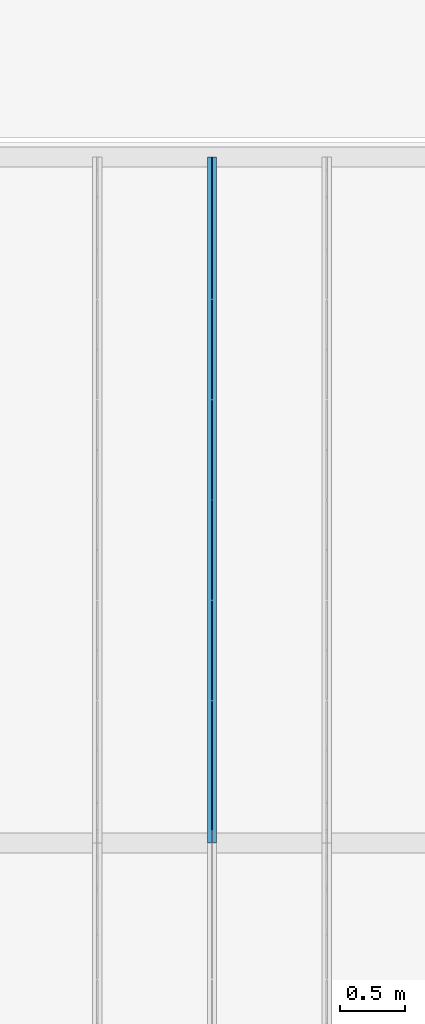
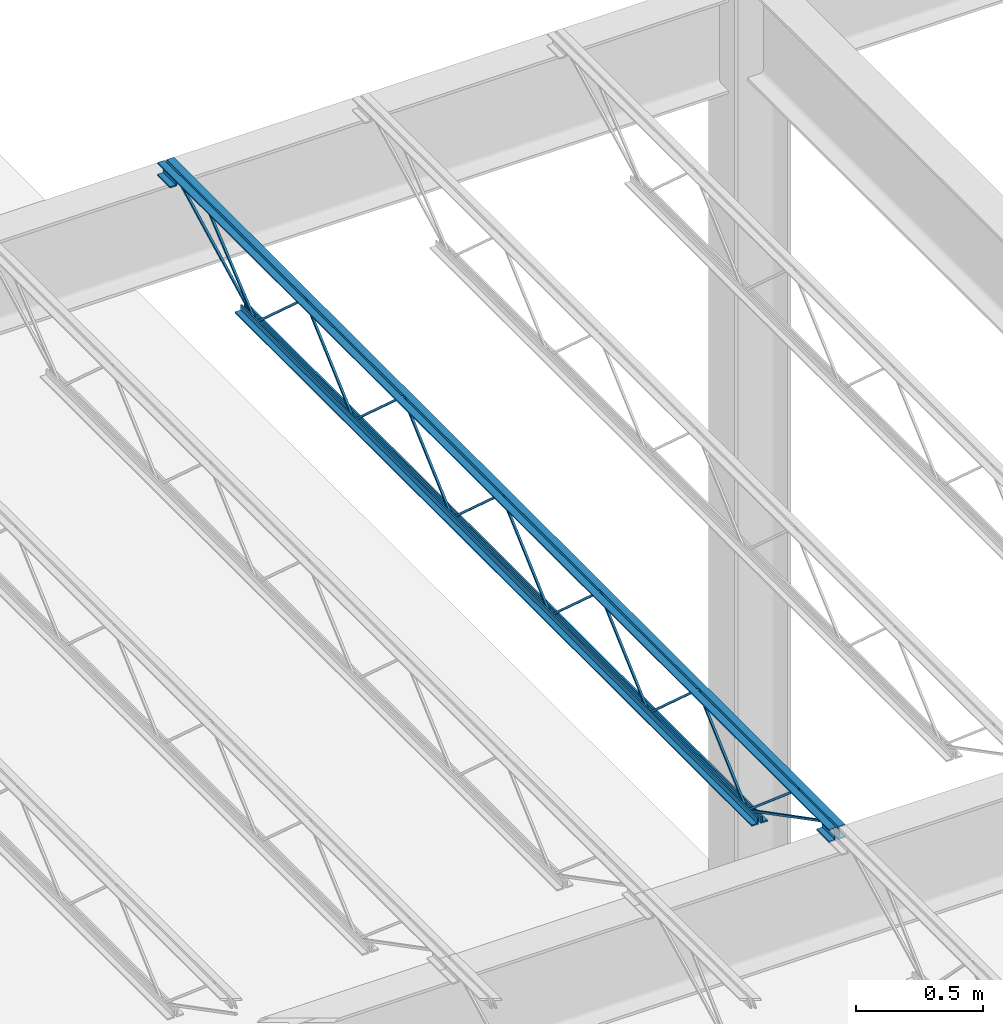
# One storey, part 92 of 119: 1 beam.
"""IFC2X3 building model written with IfcOpenShell, lengths in metres."""

from ifc_helpers import new_model, entity, si_unit, converted_unit, frame, origin, place, context, project, spatial, face_set, surface_model, element, save


model = new_model("IFC2X3")

# Units and contexts
model_context = context("Model", 3, precision=1e-09, world=origin())
plan_context = context("Plan", 3, precision=1e-09, world=origin())
ifc_project = project(units=[si_unit("LENGTHUNIT", "METRE"), si_unit("AREAUNIT", "SQUARE_METRE"), si_unit("VOLUMEUNIT", "CUBIC_METRE"), converted_unit("PLANEANGLEUNIT", "DEGREE", entity("IfcRatioMeasure", 0.01745329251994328), si_unit("PLANEANGLEUNIT", "RADIAN"), dimensions=[0, 0, 0, 0, 0, 0, 0]), si_unit("TIMEUNIT", "SECOND")], contexts=[model_context, plan_context])

# Site, building, storey
site_placement = place(None, origin())
site = spatial("IfcSite", under=ifc_project, at=site_placement, Name="Default", CompositionType="ELEMENT")
building_placement = place(site_placement, origin())
building = spatial("IfcBuilding", under=site, at=building_placement, CompositionType="ELEMENT")
storey_placement = place(building_placement, frame((0.0, 0.0, 4.570000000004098)))
storey = spatial("IfcBuildingStorey", under=building, at=storey_placement, Name="Second Floor", CompositionType="ELEMENT", Elevation=4.570000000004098)

# Beam
beam_placement = place(storey_placement, frame((-29.143, 44.78049999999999, 4.323999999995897), z_axis=(0.0, 0.0, 1.0), x_axis=(-1.0, 0.0, 0.0)))
element("IfcBeam", 1, at=beam_placement, inside=storey, Name="M_K-Series Bar Joist-Rod Web:14K1:14K1", ObjectType="M_K-Series Bar Joist-Rod Web:14K1", context=model_context, shape_type="SurfaceModel", body=[
    surface_model("IfcFaceBasedSurfaceModel", [(-0.0320000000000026, -2.266000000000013, 0.01110000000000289), (-0.04150000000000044, -2.266000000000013, 0.01110000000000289), (-0.04150000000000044, -2.266000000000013, 0.001600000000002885), (-0.0320000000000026, -2.266000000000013, 0.001600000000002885), (-0.04150000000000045, -2.264645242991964, 0.01110000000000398), (-0.0320000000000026, -2.264645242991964, 0.01110000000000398), (-0.04150000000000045, -2.26100475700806, 0.001600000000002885), (-0.04150000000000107, -1.878854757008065, 0.3449000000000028), (-0.04150000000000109, -1.876145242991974, 0.3449000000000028), (-0.0415000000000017, -1.493995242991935, 0.001600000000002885), (-0.04150000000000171, -1.489000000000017, 0.001600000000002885), (-0.04150000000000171, -1.489000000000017, 0.01110000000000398), (-0.04150000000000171, -1.490354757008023, 0.01110000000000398), (-0.04150000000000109, -1.872504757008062, 0.3544000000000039), (-0.04150000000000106, -1.882495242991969, 0.3544000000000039), (-0.03199999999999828, -2.26100475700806, 0.001600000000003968), (-0.03200000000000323, -1.878854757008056, 0.3449000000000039), (-0.03200000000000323, -1.876145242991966, 0.3449000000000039), (-0.03200000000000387, -1.493995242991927, 0.001600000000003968), (-0.03200000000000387, -1.489000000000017, 0.001600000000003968), (-0.03200000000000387, -1.489000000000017, 0.01110000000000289), (-0.03200000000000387, -1.490354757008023, 0.01110000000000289), (-0.03200000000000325, -1.872504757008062, 0.3544000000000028), (-0.03200000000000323, -1.882495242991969, 0.3544000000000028), (-0.03200000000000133, -3.04300000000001, 0.01110000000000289), (-0.04149999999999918, -3.04300000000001, 0.01110000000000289), (-0.04149999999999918, -3.04300000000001, 0.001600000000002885), (-0.03200000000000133, -3.04300000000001, 0.001600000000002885), (-0.04149999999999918, -3.041645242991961, 0.01110000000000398), (-0.03200000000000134, -3.041645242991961, 0.01110000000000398), (-0.04149999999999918, -3.038004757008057, 0.001600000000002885), (-0.0414999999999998, -2.655854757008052, 0.3449000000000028), (-0.04149999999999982, -2.653145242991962, 0.3449000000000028), (-0.04150000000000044, -2.270995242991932, 0.001600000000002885), (-0.04150000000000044, -2.266000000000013, 0.01110000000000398), (-0.04150000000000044, -2.26735475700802, 0.01110000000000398), (-0.04149999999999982, -2.649504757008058, 0.3544000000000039), (-0.0414999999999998, -2.659495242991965, 0.3544000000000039), (-0.03199999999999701, -3.038004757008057, 0.001600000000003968), (-0.03200000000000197, -2.655854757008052, 0.3449000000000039), (-0.03200000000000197, -2.653145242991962, 0.3449000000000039), (-0.0320000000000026, -2.270995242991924, 0.001600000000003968), (-0.0320000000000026, -2.266000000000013, 0.001600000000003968), (-0.0320000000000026, -2.26735475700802, 0.01110000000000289), (-0.03200000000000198, -2.649504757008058, 0.3544000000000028), (-0.03200000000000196, -2.659495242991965, 0.3544000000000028), (-0.03200000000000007, -3.820000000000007, 0.01110000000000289), (-0.04149999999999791, -3.820000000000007, 0.01110000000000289), (-0.04149999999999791, -3.820000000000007, 0.001600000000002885), (-0.03200000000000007, -3.820000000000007, 0.001600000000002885), (-0.04149999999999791, -3.818645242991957, 0.01110000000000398), (-0.03200000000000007, -3.818645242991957, 0.01110000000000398), (-0.04149999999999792, -3.815004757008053, 0.001600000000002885), (-0.04149999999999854, -3.432854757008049, 0.3449000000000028), (-0.04149999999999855, -3.430145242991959, 0.3449000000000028), (-0.04149999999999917, -3.04799524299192, 0.001600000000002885), (-0.04149999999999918, -3.043000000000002, 0.001600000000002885), (-0.04149999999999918, -3.04300000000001, 0.01110000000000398), (-0.04149999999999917, -3.044354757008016, 0.01110000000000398), (-0.04149999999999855, -3.426504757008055, 0.3544000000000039), (-0.04149999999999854, -3.436495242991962, 0.3544000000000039), (-0.03199999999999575, -3.815004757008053, 0.001600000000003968), (-0.0320000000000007, -3.432854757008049, 0.3449000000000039), (-0.0320000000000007, -3.430145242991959, 0.3449000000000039), (-0.03200000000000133, -3.04799524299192, 0.001600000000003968), (-0.03200000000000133, -3.04300000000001, 0.001600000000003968), (-0.03200000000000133, -3.043000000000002, 0.01110000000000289), (-0.03200000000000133, -3.044354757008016, 0.01110000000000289), (-0.03200000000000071, -3.426504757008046, 0.3544000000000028), (-0.0320000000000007, -3.436495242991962, 0.3544000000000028), (-0.0320000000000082, -1.489000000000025, 0.01109999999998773), (-0.04150000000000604, -1.489000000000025, 0.01109999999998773), (-0.04150000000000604, -1.489000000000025, 0.001599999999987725), (-0.0320000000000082, -1.489000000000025, 0.001599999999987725), (-0.04150000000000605, -1.487645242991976, 0.01109999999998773), (-0.0320000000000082, -1.487645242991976, 0.01109999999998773), (-0.04150000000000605, -1.484004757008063, 0.001599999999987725), (-0.04150000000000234, -1.101854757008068, 0.3448999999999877), (-0.04150000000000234, -1.099145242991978, 0.3448999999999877), (-0.04150000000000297, -0.7169952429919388, 0.001599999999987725), (-0.04150000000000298, -0.7120000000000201, 0.001599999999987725), (-0.04150000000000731, -0.7120000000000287, 0.01109999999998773), (-0.04150000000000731, -0.7133547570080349, 0.01109999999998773), (-0.04150000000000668, -1.095504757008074, 0.3543999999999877), (-0.04150000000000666, -1.10549524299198, 0.3543999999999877), (-0.03200000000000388, -1.484004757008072, 0.001599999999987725), (-0.03200000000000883, -1.101854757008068, 0.3448999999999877), (-0.03200000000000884, -1.099145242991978, 0.3448999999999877), (-0.03200000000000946, -0.7169952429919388, 0.001599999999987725), (-0.03200000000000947, -0.7120000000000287, 0.001599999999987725), (-0.03200000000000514, -0.7120000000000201, 0.01109999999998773), (-0.03200000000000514, -0.7133547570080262, 0.01109999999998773), (-0.03200000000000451, -1.095504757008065, 0.3543999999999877), (-0.0320000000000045, -1.105495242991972, 0.3543999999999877), (-0.03200000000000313, -4.597000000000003, 0.01110000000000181), (-0.04150000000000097, -4.597000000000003, 0.01110000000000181), (-0.04150000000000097, -4.597000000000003, 0.001600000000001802), (-0.03200000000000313, -4.597000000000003, 0.001600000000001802), (-0.04150000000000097, -4.595645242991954, 0.01110000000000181), (-0.03200000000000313, -4.595645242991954, 0.01110000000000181), (-0.04150000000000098, -4.592004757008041, 0.001600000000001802), (-0.04150000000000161, -4.209854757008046, 0.3449000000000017), (-0.04150000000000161, -4.207145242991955, 0.3449000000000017), (-0.0414999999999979, -3.824995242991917, 0.001600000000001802), (-0.04149999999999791, -3.819999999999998, 0.001600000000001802), (-0.04150000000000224, -3.820000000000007, 0.01110000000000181), (-0.04150000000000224, -3.821354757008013, 0.01110000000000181), (-0.04150000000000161, -4.203504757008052, 0.3544000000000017), (-0.0415000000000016, -4.213495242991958, 0.3544000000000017), (-0.03199999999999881, -4.592004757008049, 0.001600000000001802), (-0.03200000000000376, -4.209854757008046, 0.3449000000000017), (-0.03200000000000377, -4.207145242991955, 0.3449000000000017), (-0.03200000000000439, -3.824995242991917, 0.001600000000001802), (-0.0320000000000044, -3.820000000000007, 0.001600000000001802), (-0.03200000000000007, -3.819999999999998, 0.01110000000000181), (-0.03200000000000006, -3.821354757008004, 0.01110000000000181), (-0.03200000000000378, -4.203504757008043, 0.3544000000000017), (-0.03200000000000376, -4.213495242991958, 0.3544000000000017), (-0.0414999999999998, 0.0, 0.3559999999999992), (-0.07350000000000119, 0.0, 0.3559999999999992), (-0.07350000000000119, 0.0, 0.3494999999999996), (-0.04799999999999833, 0.0, 0.3494999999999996), (-0.04799999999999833, 0.0, 0.3239999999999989), (-0.0414999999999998, 0.0, 0.3239999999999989), (-0.03200000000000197, 0.0, 0.3559999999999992), (-0.03200000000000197, 0.0, 0.3239999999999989), (-0.02549999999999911, 0.0, 0.3239999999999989), (-0.02549999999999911, 0.0, 0.3494999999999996), (0.0, 0.0, 0.3494999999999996), (0.0, 0.0, 0.3559999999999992), (-0.04149999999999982, -5.309000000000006, 0.3559999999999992), (-0.0735000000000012, -5.309000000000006, 0.3559999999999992), (-0.0735000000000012, -5.309000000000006, 0.3494999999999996), (-0.04799999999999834, -5.309000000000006, 0.3494999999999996), (-0.04799999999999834, -5.309000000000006, 0.3239999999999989), (-0.04149999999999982, -5.309000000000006, 0.3239999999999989), (-0.03200000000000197, -5.309000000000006, 0.3559999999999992), (-0.03200000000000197, -5.309000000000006, 0.3239999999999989), (-0.02549999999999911, -5.309000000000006, 0.3239999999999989), (-0.02549999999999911, -5.309000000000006, 0.3494999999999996), (0.0, -5.309000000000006, 0.3494999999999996), (0.0, -5.309000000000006, 0.3559999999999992), (-0.03200000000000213, -5.20900000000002, 0.2924999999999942), (0.0, -5.20900000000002, 0.2924999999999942), (0.0, -5.20900000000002, 0.2989999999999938), (-0.02550000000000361, -5.20900000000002, 0.2989999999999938), (-0.02550000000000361, -5.20900000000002, 0.3239999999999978), (-0.03200000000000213, -5.20900000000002, 0.3239999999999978), (-0.07350000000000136, -5.20900000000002, 0.2924999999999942), (-0.04149999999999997, -5.20900000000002, 0.2924999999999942), (-0.04149999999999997, -5.20900000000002, 0.3239999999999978), (-0.04800000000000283, -5.20900000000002, 0.3239999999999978), (-0.04800000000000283, -5.20900000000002, 0.2989999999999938), (-0.07350000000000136, -5.20900000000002, 0.2989999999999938), (-0.03200000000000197, -5.309000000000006, 0.2924999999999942), (0.0, -5.309000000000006, 0.2924999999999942), (0.0, -5.309000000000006, 0.2989999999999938), (-0.02550000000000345, -5.309000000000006, 0.2989999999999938), (-0.02550000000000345, -5.309000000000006, 0.3239999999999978), (-0.03200000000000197, -5.309000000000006, 0.3239999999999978), (-0.0735000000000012, -5.309000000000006, 0.2924999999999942), (-0.04149999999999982, -5.309000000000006, 0.2924999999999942), (-0.04149999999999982, -5.309000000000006, 0.3239999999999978), (-0.04800000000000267, -5.309000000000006, 0.3239999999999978), (-0.04800000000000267, -5.309000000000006, 0.2989999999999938), (-0.0735000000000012, -5.309000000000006, 0.2989999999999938), (-0.0414999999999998, 0.0, 0.2924999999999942), (-0.0414999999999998, 0.0, 0.3239999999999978), (-0.04800000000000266, 0.0, 0.3239999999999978), (-0.04800000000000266, 0.0, 0.2989999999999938), (-0.07350000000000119, 0.0, 0.2989999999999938), (-0.07350000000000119, 0.0, 0.2924999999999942), (-0.03200000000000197, 0.0, 0.2924999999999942), (0.0, 0.0, 0.2924999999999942), (0.0, 0.0, 0.2989999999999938), (-0.02550000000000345, 0.0, 0.2989999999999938), (-0.02550000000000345, 0.0, 0.3239999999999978), (-0.03200000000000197, 0.0, 0.3239999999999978), (-0.04149999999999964, -0.1000000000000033, 0.2924999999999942), (-0.04149999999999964, -0.1000000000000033, 0.3239999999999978), (-0.0480000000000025, -0.1000000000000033, 0.3239999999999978), (-0.0480000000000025, -0.1000000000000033, 0.2989999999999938), (-0.07350000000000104, -0.1000000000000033, 0.2989999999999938), (-0.07350000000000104, -0.1000000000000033, 0.2924999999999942), (-0.03200000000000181, -0.1000000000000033, 0.2924999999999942), (0.0, -0.1000000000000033, 0.2924999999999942), (0.0, -0.1000000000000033, 0.2989999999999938), (-0.02550000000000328, -0.1000000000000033, 0.2989999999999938), (-0.02550000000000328, -0.1000000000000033, 0.3239999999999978), (-0.03200000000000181, -0.1000000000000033, 0.3239999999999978), (-0.04149999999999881, -0.6119999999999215, 0.0), (-0.04149999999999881, -0.6119999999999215, 0.03199999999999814), (-0.04799999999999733, -0.6119999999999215, 0.03199999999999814), (-0.04799999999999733, -0.6119999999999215, 0.006499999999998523), (-0.07350000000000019, -0.6119999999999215, 0.006499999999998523), (-0.07350000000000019, -0.6119999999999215, 0.0), (-0.03200000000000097, -0.6119999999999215, 0.0), (0.0, -0.6119999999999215, 0.0), (0.0, -0.6119999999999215, 0.006499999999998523), (-0.02549999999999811, -0.6119999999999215, 0.006499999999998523), (-0.02549999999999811, -0.6119999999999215, 0.03199999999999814), (-0.03200000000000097, -0.6119999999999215, 0.03199999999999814), (-0.04150000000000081, -4.696999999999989, 0.0), (-0.04150000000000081, -4.696999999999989, 0.03199999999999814), (-0.04799999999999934, -4.696999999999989, 0.03199999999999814), (-0.04799999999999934, -4.696999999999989, 0.006499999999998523), (-0.0735000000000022, -4.696999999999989, 0.006499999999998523), (-0.0735000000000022, -4.696999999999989, 0.0), (-0.03200000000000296, -4.696999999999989, 0.0), (0.0, -4.696999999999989, 0.0), (0.0, -4.696999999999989, 0.006499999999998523), (-0.02550000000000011, -4.696999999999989, 0.006499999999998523), (-0.02550000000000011, -4.696999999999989, 0.03199999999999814), (-0.03200000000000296, -4.696999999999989, 0.03199999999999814), (-0.03200000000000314, -4.594811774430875, 0.01056594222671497), (-0.04150000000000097, -4.594811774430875, 0.01056594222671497), (-0.04150000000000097, -4.599188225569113, 0.00213405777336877), (-0.03200000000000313, -4.599188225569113, 0.00213405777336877), (-0.03200000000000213, -5.207840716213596, 0.3287499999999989), (-0.03200000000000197, -5.308999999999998, 0.3287499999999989), (-0.03200000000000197, -5.308999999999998, 0.3192499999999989), (-0.03200000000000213, -5.210159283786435, 0.3192499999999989), (-0.0415000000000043, -5.210159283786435, 0.3192499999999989), (-0.04149999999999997, -5.207840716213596, 0.3287499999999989), (-0.04149999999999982, -5.308999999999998, 0.3287499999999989), (-0.04149999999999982, -5.309000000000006, 0.3192499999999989), (-0.03200000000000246, -5.005457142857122, 0.3417000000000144), (-0.0415000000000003, -5.005457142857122, 0.3417000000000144), (-0.0415000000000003, -5.005457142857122, 0.3322000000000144), (-0.03200000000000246, -5.005457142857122, 0.3322000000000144), (-0.04150000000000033, -4.991034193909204, 0.3417000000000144), (-0.03200000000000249, -4.991034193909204, 0.3417000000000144), (-0.04150000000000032, -4.994480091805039, 0.3322000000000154), (-0.04150000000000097, -4.600045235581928, 0.002704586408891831), (-0.04150000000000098, -4.593954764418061, 0.009995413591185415), (-0.03199999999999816, -4.994480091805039, 0.3322000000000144), (-0.03200000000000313, -4.600045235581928, 0.002704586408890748), (-0.03200000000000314, -4.593954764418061, 0.009995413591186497), (-0.03200000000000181, -0.09781177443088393, 0.3197840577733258), (-0.03200000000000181, -0.1021882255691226, 0.328215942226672), (-0.04149999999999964, -0.1021882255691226, 0.328215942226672), (-0.04149999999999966, -0.09781177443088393, 0.3197840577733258), (-0.03200000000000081, -0.7098117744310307, 0.002134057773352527), (-0.0320000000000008, -0.7141882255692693, 0.01056594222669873), (-0.04149999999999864, -0.7141882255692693, 0.01056594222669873), (-0.04149999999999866, -0.7098117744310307, 0.002134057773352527), (-0.03200000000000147, -0.3059055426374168, 0.3460340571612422), (-0.03200000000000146, -0.3120658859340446, 0.35326594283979), (-0.04149999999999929, -0.3120658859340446, 0.3532659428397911), (-0.04149999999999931, -0.3059055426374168, 0.3460340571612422), (-0.03200000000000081, -0.7089198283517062, 0.002734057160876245), (-0.0320000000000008, -0.7150801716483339, 0.00996594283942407), (-0.04149999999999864, -0.7150801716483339, 0.00996594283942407), (-0.04149999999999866, -0.7089198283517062, 0.002734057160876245)], [face_set([[[0, 1, 2, 3]], [[1, 4, 5, 0]], [[2, 6, 7, 8, 9, 10, 11, 12, 13, 14, 4, 1]], [[3, 2, 6, 15]], [[0, 3, 15, 16, 17, 18, 19, 20, 21, 22, 23, 5]], [[4, 5, 23, 14]], [[15, 16, 7, 6]], [[14, 13, 22, 23]], [[16, 7, 8, 17]], [[13, 12, 21, 22]], [[17, 8, 9, 18]], [[20, 11, 10, 19]], [[12, 11, 20, 21]], [[18, 9, 10, 19]]]), face_set([[[24, 25, 26, 27]], [[25, 28, 29, 24]], [[26, 30, 31, 32, 33, 2, 34, 35, 36, 37, 28, 25]], [[27, 26, 30, 38]], [[24, 27, 38, 39, 40, 41, 42, 0, 43, 44, 45, 29]], [[28, 29, 45, 37]], [[38, 39, 31, 30]], [[37, 36, 44, 45]], [[39, 31, 32, 40]], [[36, 35, 43, 44]], [[40, 32, 33, 41]], [[0, 34, 2, 42]], [[35, 34, 0, 43]], [[41, 33, 2, 42]]]), face_set([[[46, 47, 48, 49]], [[47, 50, 51, 46]], [[48, 52, 53, 54, 55, 56, 57, 58, 59, 60, 50, 47]], [[49, 48, 52, 61]], [[46, 49, 61, 62, 63, 64, 65, 66, 67, 68, 69, 51]], [[50, 51, 69, 60]], [[61, 62, 53, 52]], [[60, 59, 68, 69]], [[62, 53, 54, 63]], [[59, 58, 67, 68]], [[63, 54, 55, 64]], [[66, 57, 56, 65]], [[58, 57, 66, 67]], [[64, 55, 56, 65]]]), face_set([[[70, 71, 72, 73]], [[71, 74, 75, 70]], [[72, 76, 77, 78, 79, 80, 81, 82, 83, 84, 74, 71]], [[73, 72, 76, 85]], [[70, 73, 85, 86, 87, 88, 89, 90, 91, 92, 93, 75]], [[74, 75, 93, 84]], [[85, 86, 77, 76]], [[84, 83, 92, 93]], [[86, 77, 78, 87]], [[83, 82, 91, 92]], [[87, 78, 79, 88]], [[90, 81, 80, 89]], [[82, 81, 90, 91]], [[88, 79, 80, 89]]]), face_set([[[94, 95, 96, 97]], [[95, 98, 99, 94]], [[96, 100, 101, 102, 103, 104, 105, 106, 107, 108, 98, 95]], [[97, 96, 100, 109]], [[94, 97, 109, 110, 111, 112, 113, 114, 115, 116, 117, 99]], [[98, 99, 117, 108]], [[109, 110, 101, 100]], [[108, 107, 116, 117]], [[110, 101, 102, 111]], [[107, 106, 115, 116]], [[111, 102, 103, 112]], [[114, 105, 104, 113]], [[106, 105, 114, 115]], [[112, 103, 104, 113]]]), face_set([[[118, 119, 120, 121, 122, 123]], [[124, 125, 126, 127, 128, 129]], [[130, 131, 132, 133, 134, 135]], [[136, 137, 138, 139, 140, 141]], [[123, 118, 130, 135]], [[122, 123, 135, 134]], [[121, 133, 134, 122]], [[120, 121, 133, 132]], [[119, 131, 132, 120]], [[118, 130, 131, 119]], [[129, 141, 136, 124]], [[128, 129, 141, 140]], [[127, 128, 140, 139]], [[126, 127, 139, 138]], [[125, 126, 138, 137]], [[124, 136, 137, 125]]]), face_set([[[142, 143, 144, 145, 146, 147]], [[148, 149, 150, 151, 152, 153]], [[154, 155, 156, 157, 158, 159]], [[160, 161, 162, 163, 164, 165]], [[147, 159, 154, 142]], [[146, 158, 159, 147]], [[145, 146, 158, 157]], [[144, 156, 157, 145]], [[143, 144, 156, 155]], [[142, 143, 155, 154]], [[153, 165, 160, 148]], [[152, 164, 165, 153]], [[151, 163, 164, 152]], [[150, 162, 163, 151]], [[149, 150, 162, 161]], [[148, 149, 161, 160]]]), face_set([[[166, 167, 168, 169, 170, 171]], [[172, 173, 174, 175, 176, 177]], [[178, 179, 180, 181, 182, 183]], [[184, 185, 186, 187, 188, 189]], [[171, 166, 178, 183]], [[170, 182, 183, 171]], [[169, 181, 182, 170]], [[168, 180, 181, 169]], [[167, 179, 180, 168]], [[166, 167, 179, 178]], [[177, 189, 184, 172]], [[176, 188, 189, 177]], [[175, 176, 188, 187]], [[174, 186, 187, 175]], [[173, 174, 186, 185]], [[172, 173, 185, 184]]]), face_set([[[190, 191, 192, 193, 194, 195]], [[196, 197, 198, 199, 200, 201]], [[202, 203, 204, 205, 206, 207]], [[208, 209, 210, 211, 212, 213]], [[195, 190, 202, 207]], [[194, 206, 207, 195]], [[193, 205, 206, 194]], [[192, 204, 205, 193]], [[191, 203, 204, 192]], [[190, 191, 203, 202]], [[201, 213, 208, 196]], [[200, 212, 213, 201]], [[199, 200, 212, 211]], [[198, 210, 211, 199]], [[197, 198, 210, 209]], [[196, 197, 209, 208]]]), face_set([[[214, 215, 216, 217]], [[217, 214, 218, 219, 220, 221]], [[216, 217, 221, 222]], [[215, 223, 224, 225, 222, 216]], [[214, 218, 223, 215]], [[219, 224, 225, 220]], [[222, 221, 220, 225]], [[218, 219, 224, 223]]]), face_set([[[226, 227, 228, 229]], [[227, 230, 231, 226]], [[228, 232, 233, 234, 230, 227]], [[229, 228, 232, 235]], [[226, 229, 235, 236, 237, 231]], [[237, 234, 233, 236]], [[230, 234, 237, 231]], [[235, 232, 233, 236]]]), face_set([[[238, 239, 240, 241]], [[242, 243, 244, 245]], [[241, 245, 242, 238]], [[240, 244, 245, 241]], [[239, 240, 244, 243]], [[238, 239, 243, 242]]]), face_set([[[246, 247, 248, 249]], [[250, 251, 252, 253]], [[249, 253, 250, 246]], [[248, 252, 253, 249]], [[247, 248, 252, 251]], [[246, 247, 251, 250]]])]),
])

save(model, "model.ifc")
